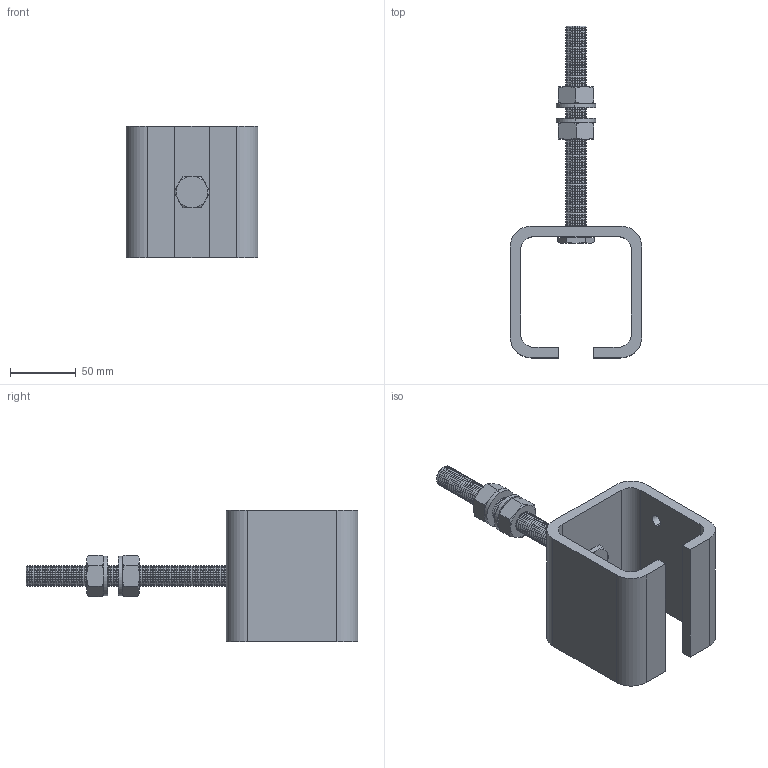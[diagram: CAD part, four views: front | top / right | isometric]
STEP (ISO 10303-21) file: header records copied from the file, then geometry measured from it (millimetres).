
FILE_DESCRIPTION (( 'STEP AP203' ), '1' );
FILE_NAME ('60090-0.STEP', '2024-10-14T11:36:19', ( '' ), ( '' ), 'SwSTEP 2.0', 'SolidWorks 2022', '' );
FILE_SCHEMA (( 'CONFIG_CONTROL_DESIGN' ));
Length unit declared in the file: millimetre
Products named in the file (5): U-2000; hex nut high strength_din_Hexagon Nut DIN 6915 - M16 - N; Tornillo Hexagonal ESPECIAL__DIN EN 24014 - M16 x 160 x 160-C; 60090-0; plain washer hardened grade a_1_din_Washer DIN 125 - A 17 - 300HV
Assembly tree (6 placements, depth 2):
  60090-0
    U-2000
    Tornillo Hexagonal ESPECIAL__DIN EN 24014 - M16 x 160 x 160-C
    hex nut high strength_din_Hexagon Nut DIN 6915 - M16 - N  x2
    plain washer hardened grade a_1_din_Washer DIN 125 - A 17 - 300HV  x2
Bounding box: 100 x 252 x 100 mm (x, y, z)
Volume: 303447.8 mm3; surface area: 92104.7 mm2
Topology: 6 solids, 6 shells, 720 faces, 1868 edges, 1172 vertices
Faces by surface type: cone 364, cylinder 192, plane 109, bspline 53, torus 2
Entity records: 24353 total; most frequent: CARTESIAN_POINT 6650, DIRECTION 3798, ORIENTED_EDGE 3576, EDGE_CURVE 1788, AXIS2_PLACEMENT_3D 1514, VERTEX_POINT 1126, CIRCLE 876, LINE 770
